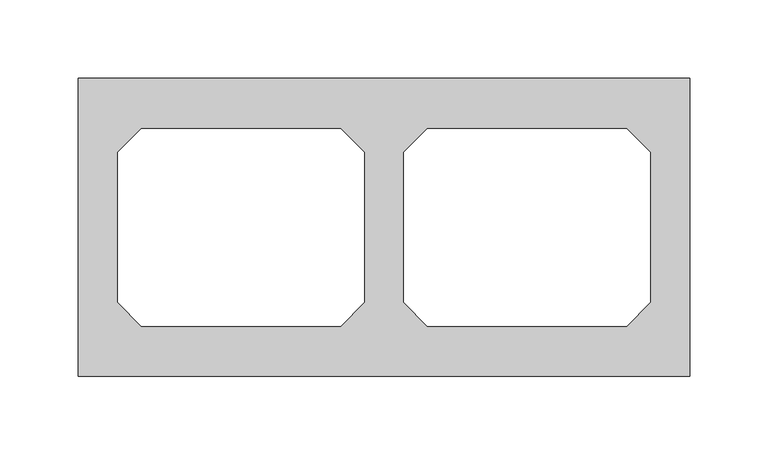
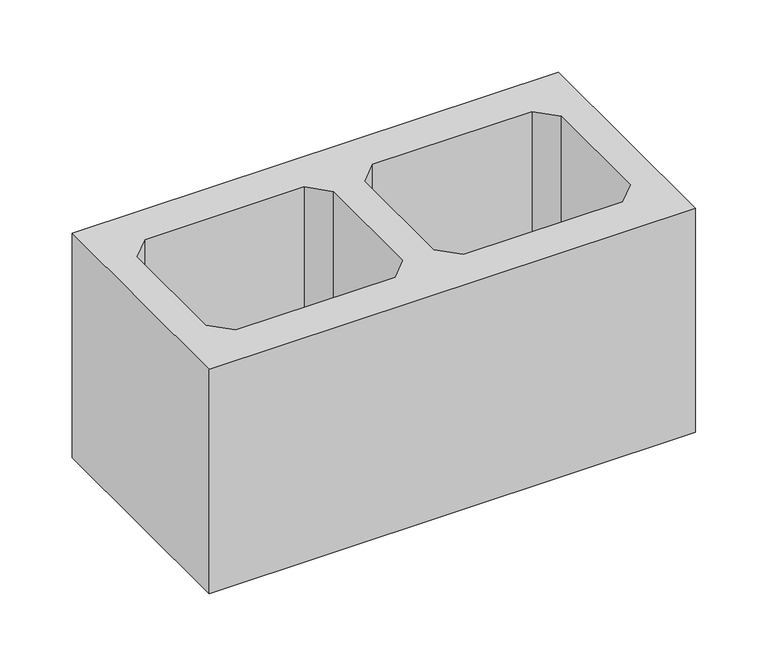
"""IFC4 building model written with IfcOpenShell, lengths in millimetres: proxy geometry, Bloco de Concreto - Inteiro : Família 20 x 40 - Classe A."""

from ifc_helpers import new_model, si_unit, origin, origin_with_axes, place, context, project, spatial, polyline, outline, extrude, source, transform, mapped, element, save


def generic_models_b0686c89(model_context):
    return source(origin(), model_context, "Body", "SweptSolid", [
        extrude(outline(polyline([(195.0, -95.0), (-195.0, -95.0), (-195.0, 95.0), (195.0, 95.0), (195.0, -95.0)]), holes=[polyline([(-27.5, -63.0), (-12.5, -48.0), (-12.5, 48.0), (-27.5, 63.0), (-155.0, 63.0), (-170.0, 48.0), (-170.0, -48.0), (-155.0, -63.0), (-27.5, -63.0)]), polyline([(155.0, -63.0), (170.0, -48.0), (170.0, 48.0), (155.0, 63.0), (27.5, 63.0), (12.5, 48.0), (12.5, -48.0), (27.5, -63.0), (155.0, -63.0)])]), origin_with_axes(), (0.0, 0.0, 1.0), 190.0),
    ])


if __name__ == "__main__":
    model = new_model("IFC4")
    model_context = context("Model", 3, world=origin())
    ifc_project = project(units=[si_unit("LENGTHUNIT", "METRE", prefix="MILLI")], contexts=[model_context])
    site = spatial("IfcSite", under=ifc_project)
    building = spatial("IfcBuilding", under=site)
    placement = place(None, origin())
    generic_models_shape = generic_models_b0686c89(model_context)
    element("IfcBuildingElementProxy", 1, Name="Bloco de Concreto - Inteiro : Família 20 x 40 - Classe A", ObjectType="Bloco de Concreto - Inteiro : Família 20 x 40 - Classe A", at=placement, inside=building, context=model_context, shape_type="MappedRepresentation", body=[
        mapped(generic_models_shape, transform((0.0, 0.0, 0.0), x_axis=(1.0, 0.0, 0.0), y_axis=(0.0, 1.0, 0.0), z_axis=(0.0, 0.0, 1.0))),
    ])
    save(model, "model.ifc")
